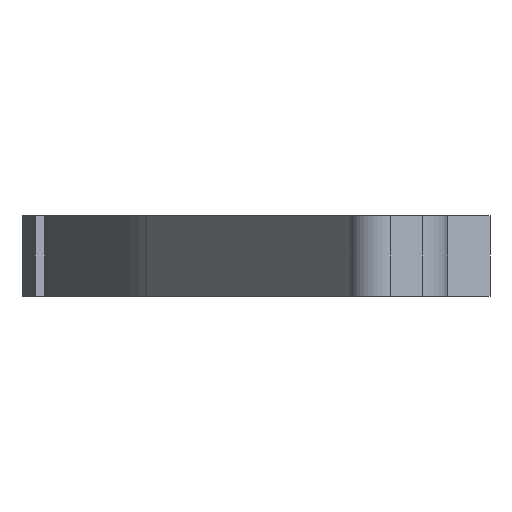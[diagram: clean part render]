
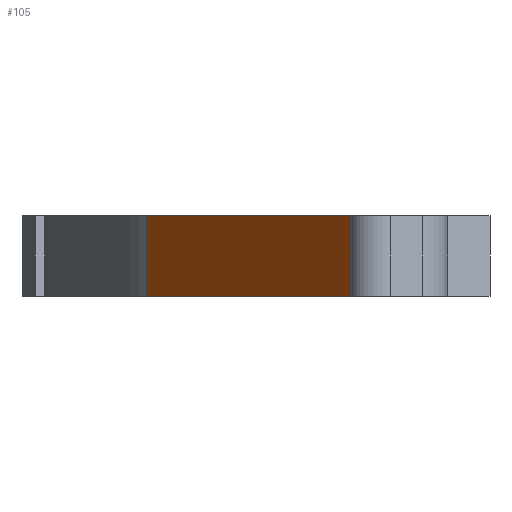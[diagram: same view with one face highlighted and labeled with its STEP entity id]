
A CAD part, front view. The second image highlights one B-rep face of the part: STEP entity #105.
In plain terms, the highlighted planar face has unit normal (-0.972, -0.234, 0).
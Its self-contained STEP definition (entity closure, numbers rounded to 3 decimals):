
#105 = ADVANCED_FACE ( 'NONE', ( #555 ), #484, .F. ) ;
#138 = LINE ( 'NONE', #378, #1429 ) ;
#151 = EDGE_CURVE ( 'NONE', #751, #1548, #138, .T. ) ;
#218 = CARTESIAN_POINT ( 'NONE',  ( 869.666, 2144.942, 18. ) ) ;
#224 = ORIENTED_EDGE ( 'NONE', *, *, #603, .T. ) ;
#341 = ORIENTED_EDGE ( 'NONE', *, *, #1518, .T. ) ;
#378 = CARTESIAN_POINT ( 'NONE',  ( 869.666, 2144.942, 18. ) ) ;
#387 = VECTOR ( 'NONE', #1211, 1000. ) ;
#440 = DIRECTION ( 'NONE',  ( 0., 0., -1. ) ) ;
#484 = PLANE ( 'NONE',  #1616 ) ;
#555 = FACE_OUTER_BOUND ( 'NONE', #850, .T. ) ;
#603 = EDGE_CURVE ( 'NONE', #751, #1261, #1370, .T. ) ;
#671 = VECTOR ( 'NONE', #440, 1000. ) ;
#751 = VERTEX_POINT ( 'NONE', #978 ) ;
#788 = ORIENTED_EDGE ( 'NONE', *, *, #1461, .F. ) ;
#836 = CARTESIAN_POINT ( 'NONE',  ( 915.253, 1955.776, 18. ) ) ;
#848 = DIRECTION ( 'NONE',  ( -0.234, 0.972, 0. ) ) ;
#850 = EDGE_LOOP ( 'NONE', ( #341, #788, #1460, #224 ) ) ;
#922 = CARTESIAN_POINT ( 'NONE',  ( 869.666, 2144.942, 0. ) ) ;
#927 = VECTOR ( 'NONE', #1213, 1000. ) ;
#966 = CARTESIAN_POINT ( 'NONE',  ( 915.253, 1955.776, 18. ) ) ;
#967 = CARTESIAN_POINT ( 'NONE',  ( 869.666, 2144.942, 0. ) ) ;
#978 = CARTESIAN_POINT ( 'NONE',  ( 869.666, 2144.942, 18. ) ) ;
#1032 = CARTESIAN_POINT ( 'NONE',  ( 915.253, 1955.776, 0. ) ) ;
#1104 = LINE ( 'NONE', #966, #387 ) ;
#1125 = DIRECTION ( 'NONE',  ( 0.972, 0.234, 0. ) ) ;
#1136 = DIRECTION ( 'NONE',  ( 0.234, -0.972, 0. ) ) ;
#1195 = VERTEX_POINT ( 'NONE', #1032 ) ;
#1211 = DIRECTION ( 'NONE',  ( 0., 0., -1. ) ) ;
#1213 = DIRECTION ( 'NONE',  ( 0.234, -0.972, 0. ) ) ;
#1261 = VERTEX_POINT ( 'NONE', #922 ) ;
#1315 = CARTESIAN_POINT ( 'NONE',  ( 869.666, 2144.942, 18. ) ) ;
#1370 = LINE ( 'NONE', #1315, #671 ) ;
#1424 = LINE ( 'NONE', #967, #927 ) ;
#1429 = VECTOR ( 'NONE', #1136, 1000. ) ;
#1460 = ORIENTED_EDGE ( 'NONE', *, *, #151, .F. ) ;
#1461 = EDGE_CURVE ( 'NONE', #1548, #1195, #1104, .T. ) ;
#1518 = EDGE_CURVE ( 'NONE', #1261, #1195, #1424, .T. ) ;
#1548 = VERTEX_POINT ( 'NONE', #836 ) ;
#1616 = AXIS2_PLACEMENT_3D ( 'NONE', #218, #1125, #848 ) ;
